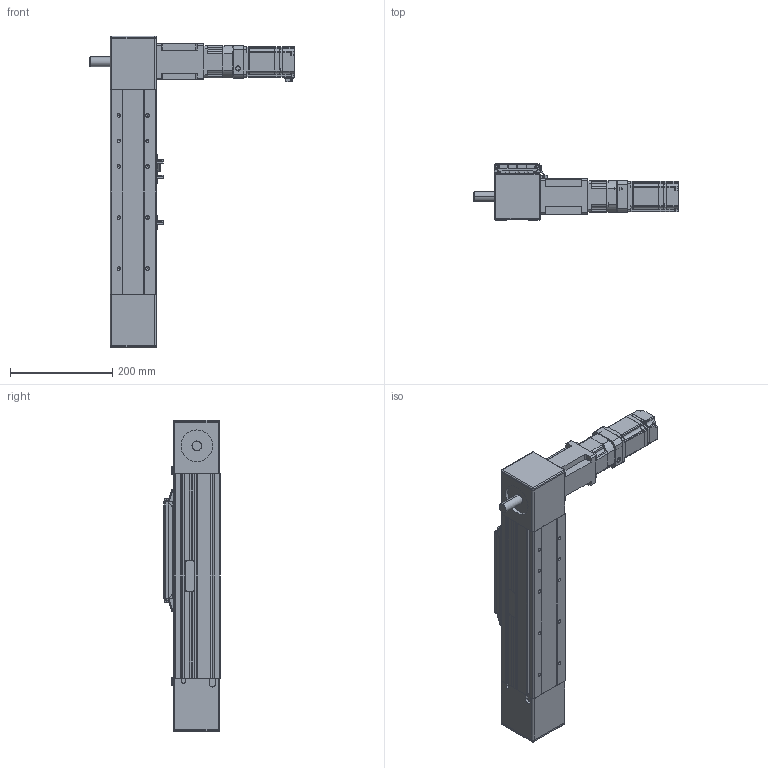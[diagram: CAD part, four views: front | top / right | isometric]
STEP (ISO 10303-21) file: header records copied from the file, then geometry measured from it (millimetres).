
FILE_DESCRIPTION (( 'STEP AP203' ), '1' );
FILE_NAME ('PCB090SDN-0000-ST100-40NR00-N-I3R.STEP', '2015-10-16T08:14:57', ( '' ), ( '' ), 'SwSTEP 2.0', 'SolidWorks 2012', '' );
FILE_SCHEMA (( 'CONFIG_CONTROL_DESIGN' ));
Products named in the file (12): jc42c; PCB090SDN-0000-ST100-40NR00-N-I3R; PCS90 SENSOR DOG; MOTOR BRACKET 62(SHAFT TYPE); sgmjv_04a_a21; PGX62-H-1_3; 090_SLIDER_END_COVER_ANY; EE_SX672; PCB090 Idler Pulley Block; PCB090 Drive Pulley Block 1; PCB090 BASE FRAME-100ST; PCB090 Carrier
Assembly tree (14 placements, depth 2):
  PCB090SDN-0000-ST100-40NR00-N-I3R
    PCB090 BASE FRAME-100ST
    PCB090 Carrier
    PCB090 Drive Pulley Block 1
    PCB090 Idler Pulley Block
    090_SLIDER_END_COVER_ANY  x2
    EE_SX672  x3
    PCS90 SENSOR DOG
    MOTOR BRACKET 62(SHAFT TYPE)
    PGX62-H-1_3
    sgmjv_04a_a21
    jc42c
Bounding box: 400.6 x 110 x 610 mm (x, y, z)
Volume: 4190341.7 mm3; surface area: 802903.9 mm2
Topology: 38 solids, 39 shells, 2709 faces, 7171 edges, 4596 vertices
Faces by surface type: plane 1401, cylinder 979, cone 197, bspline 112, torus 16, sphere 4
Entity records: 78570 total; most frequent: CARTESIAN_POINT 18591, ORIENTED_EDGE 12252, DIRECTION 12201, EDGE_CURVE 6151, AXIS2_PLACEMENT_3D 4200, VERTEX_POINT 3997, VECTOR 3801, LINE 3801
